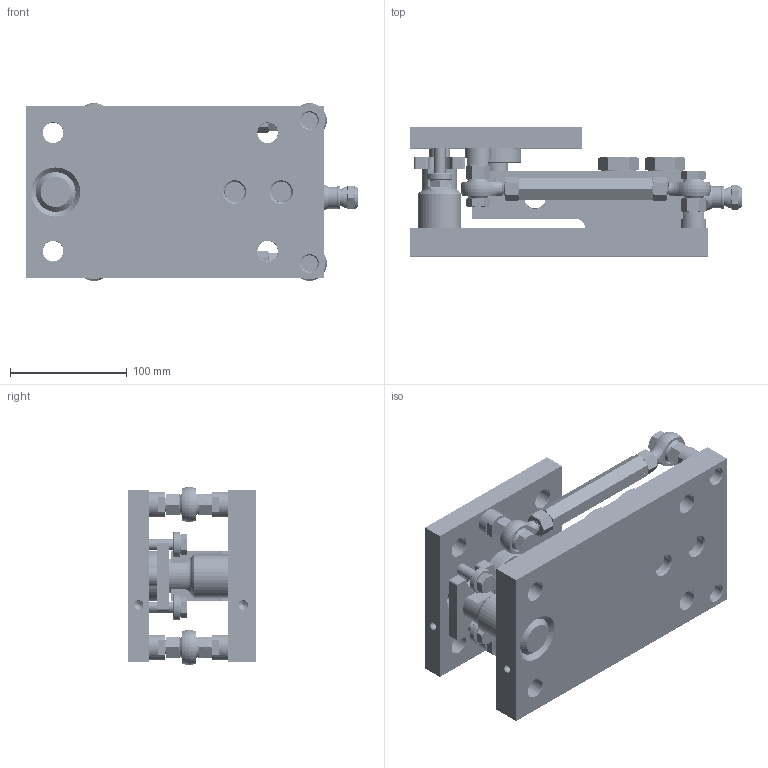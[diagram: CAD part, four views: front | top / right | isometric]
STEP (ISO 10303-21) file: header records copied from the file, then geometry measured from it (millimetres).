
FILE_DESCRIPTION (( 'STEP AP214' ), '1' );
FILE_NAME ('Load_Point_HI ONELP-H-11.25KLB-XX_With Check Links.STEP', '2016-08-18T21:26:37', ( 'Jim' ), ( 'Hewlett-Packard Company' ), 'SwSTEP 2.0', 'SolidWorks 2015', '' );
FILE_SCHEMA (( 'AUTOMOTIVE_DESIGN' ));
Length unit declared in the file: millimetre
Products named in the file (33): 0006668; 0005558; 0005556; Rocker Pin Assembly; 0006798; O-Ring; 0006697; Rocker Pin; 0009750; Hex Screw GradeAB_ISO_ISO 4017 - M10 x 45-N-A2.70; 0005552; Stabilizer Rod Assembly; 0005550; Hex Nut Style 2_AM_LEFT HEAND THREAD B18.2.4.2M - Hex nut, Style 2,  M12 x 1.75 --D-N-A2.70; Load Cup; Hex Nut Style 2_AM_B18.2.4.2M - Hex nut, Style 2,  M12 x 1.75 --D-N-A2.70; Top Plate; Hex Screw GradeAB_ISO_ISO 4017 - M12 x 35-N-A2.70; Base Plate Assembly; 0063201_4483T341; Center Pillar Assembly_Post Second Machining; 0063200_4483T342; 0063199; Lift-Off Plate; Stabilizer Rod Standoff; Center Pillar; Hex Screw GradeAB_ISO_ISO 4017 - M20 x 65-N-A2.70; Base Plate; Lift-Off Washer; Load Sensor Assembly; Load_Point_HI ONELP-H-11.25KLB-XX_With Check Links; 0019744; 0045191
Assembly tree (43 placements, depth 4):
  Load_Point_HI ONELP-H-11.25KLB-XX_With Check Links
    Base Plate Assembly
      Base Plate
      Center Pillar Assembly_Post Second Machining
        Center Pillar
        Lift-Off Plate
    Top Plate
    Load Cup
    Load Sensor Assembly
      0005550
      0005552
      0009750
      0006697
      0006798
      0005556
      0005558
      0006668
      0045191
      0019744
    Lift-Off Washer  x2
    Hex Screw GradeAB_ISO_ISO 4017 - M20 x 65-N-A2.70  x2
    Stabilizer Rod Standoff  x4
    Stabilizer Rod Assembly  x2
      0063199
      0063200_4483T342
      0063201_4483T341
      Hex Screw GradeAB_ISO_ISO 4017 - M12 x 35-N-A2.70
      Hex Nut Style 2_AM_B18.2.4.2M - Hex nut, Style 2,  M12 x 1.75 --D-N-A2.70
      Hex Nut Style 2_AM_LEFT HEAND THREAD B18.2.4.2M - Hex nut, Style 2,  M12 x 1.75 --D-N-A2.70
    Hex Screw GradeAB_ISO_ISO 4017 - M10 x 45-N-A2.70  x2
    Rocker Pin Assembly
      Rocker Pin
      O-Ring  x2
Bounding box: 284.98 x 110.62 x 152.68 mm (x, y, z)
Volume: 1875520.2 mm3; surface area: 357113.7 mm2
Topology: 50 solids, 50 shells, 8073 faces, 22251 edges, 15032 vertices
Faces by surface type: bspline 4724, plane 2123, cylinder 710, cone 418, torus 82, sphere 16
Entity records: 390409 total; most frequent: CARTESIAN_POINT 225497, ORIENTED_EDGE 41486, EDGE_CURVE 20743, DIRECTION 17420, VERTEX_POINT 14130, B_SPLINE_CURVE_WITH_KNOTS 10040, VECTOR 8672, LINE 8672
